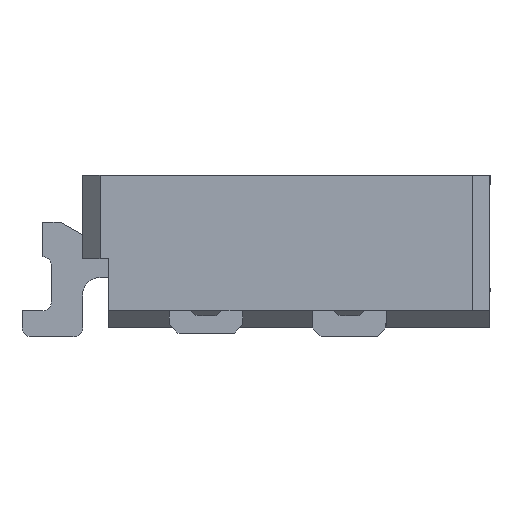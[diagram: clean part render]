
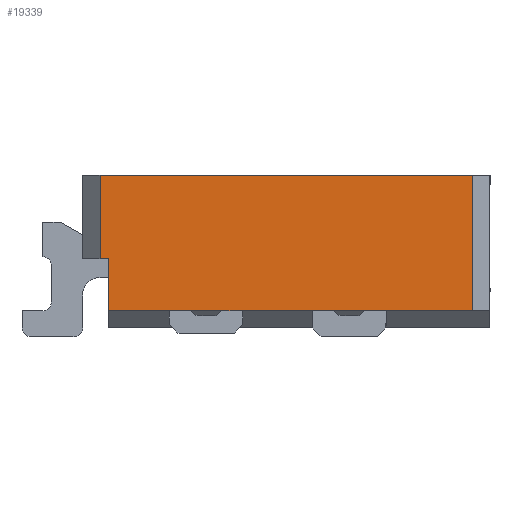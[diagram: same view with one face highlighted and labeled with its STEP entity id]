
A CAD part, front view. The second image highlights one B-rep face of the part: STEP entity #19339.
In plain terms, the highlighted planar face has unit normal (0, -1, 0).
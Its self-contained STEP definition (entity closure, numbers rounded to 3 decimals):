
#10 = EDGE_CURVE ( 'NONE', #4883, #8391, #12121, .T. ) ;
#1510 = DIRECTION ( 'NONE',  ( 0., 0., -1. ) ) ;
#3222 = VECTOR ( 'NONE', #3929, 1000. ) ;
#3324 = VECTOR ( 'NONE', #7524, 1000. ) ;
#3405 = EDGE_CURVE ( 'NONE', #8838, #14094, #6122, .T. ) ;
#3774 = VECTOR ( 'NONE', #11850, 1000. ) ;
#3817 = CARTESIAN_POINT ( 'NONE',  ( 1.25, -4.65, 0.88 ) ) ;
#3929 = DIRECTION ( 'NONE',  ( -1., 0., 0. ) ) ;
#4883 = VERTEX_POINT ( 'NONE', #6375 ) ;
#5207 = VERTEX_POINT ( 'NONE', #14785 ) ;
#5844 = ORIENTED_EDGE ( 'NONE', *, *, #8747, .F. ) ;
#6122 = LINE ( 'NONE', #3817, #6698 ) ;
#6170 = DIRECTION ( 'NONE',  ( 0., 0., 1. ) ) ;
#6237 = CARTESIAN_POINT ( 'NONE',  ( 0., -4.65, 0.4 ) ) ;
#6249 = ORIENTED_EDGE ( 'NONE', *, *, #3405, .F. ) ;
#6375 = CARTESIAN_POINT ( 'NONE',  ( -0.85, -4.65, 0.1 ) ) ;
#6698 = VECTOR ( 'NONE', #1510, 1000. ) ;
#6956 = CARTESIAN_POINT ( 'NONE',  ( -0.85, -4.65, 0.4 ) ) ;
#7069 = FACE_OUTER_BOUND ( 'NONE', #7807, .T. ) ;
#7462 = DIRECTION ( 'NONE',  ( -1., 0., 0. ) ) ;
#7524 = DIRECTION ( 'NONE',  ( 0., 0., 1. ) ) ;
#7807 = EDGE_LOOP ( 'NONE', ( #6249, #13769, #22310, #21771, #14240, #5844 ) ) ;
#8391 = VERTEX_POINT ( 'NONE', #6956 ) ;
#8461 = DIRECTION ( 'NONE',  ( 0., 1., 0. ) ) ;
#8528 = LINE ( 'NONE', #6237, #3222 ) ;
#8747 = EDGE_CURVE ( 'NONE', #14094, #4883, #12052, .T. ) ;
#8838 = VERTEX_POINT ( 'NONE', #19589 ) ;
#9750 = CARTESIAN_POINT ( 'NONE',  ( 0., -4.65, 0.1 ) ) ;
#9830 = CARTESIAN_POINT ( 'NONE',  ( -0.85, -4.65, 0. ) ) ;
#10131 = EDGE_CURVE ( 'NONE', #10601, #5207, #16373, .T. ) ;
#10601 = VERTEX_POINT ( 'NONE', #18111 ) ;
#10769 = CARTESIAN_POINT ( 'NONE',  ( 0., -4.65, 0. ) ) ;
#11850 = DIRECTION ( 'NONE',  ( 0., 0., 1. ) ) ;
#12052 = LINE ( 'NONE', #9750, #12187 ) ;
#12121 = LINE ( 'NONE', #9830, #3324 ) ;
#12187 = VECTOR ( 'NONE', #7462, 1000. ) ;
#12992 = EDGE_CURVE ( 'NONE', #5207, #8838, #20122, .T. ) ;
#13028 = PLANE ( 'NONE',  #21491 ) ;
#13677 = VECTOR ( 'NONE', #15517, 1000. ) ;
#13769 = ORIENTED_EDGE ( 'NONE', *, *, #12992, .F. ) ;
#14094 = VERTEX_POINT ( 'NONE', #15058 ) ;
#14107 = CARTESIAN_POINT ( 'NONE',  ( -0.9, -4.65, 0. ) ) ;
#14240 = ORIENTED_EDGE ( 'NONE', *, *, #10, .F. ) ;
#14785 = CARTESIAN_POINT ( 'NONE',  ( -0.9, -4.65, 0.88 ) ) ;
#15056 = EDGE_CURVE ( 'NONE', #8391, #10601, #8528, .T. ) ;
#15058 = CARTESIAN_POINT ( 'NONE',  ( 1.25, -4.65, 0.1 ) ) ;
#15517 = DIRECTION ( 'NONE',  ( 1., 0., 0. ) ) ;
#16373 = LINE ( 'NONE', #14107, #3774 ) ;
#17800 = CARTESIAN_POINT ( 'NONE',  ( 1.35, -4.65, 0.88 ) ) ;
#18111 = CARTESIAN_POINT ( 'NONE',  ( -0.9, -4.65, 0.4 ) ) ;
#19339 = ADVANCED_FACE ( 'NONE', ( #7069 ), #13028, .F. ) ;
#19589 = CARTESIAN_POINT ( 'NONE',  ( 1.25, -4.65, 0.88 ) ) ;
#20122 = LINE ( 'NONE', #17800, #13677 ) ;
#21491 = AXIS2_PLACEMENT_3D ( 'NONE', #10769, #8461, #6170 ) ;
#21771 = ORIENTED_EDGE ( 'NONE', *, *, #15056, .F. ) ;
#22310 = ORIENTED_EDGE ( 'NONE', *, *, #10131, .F. ) ;
